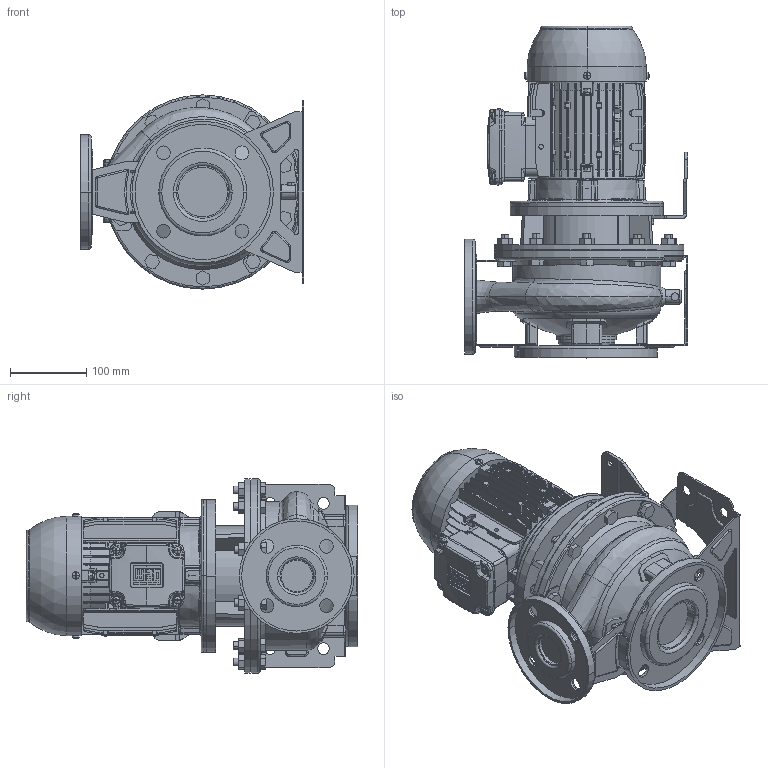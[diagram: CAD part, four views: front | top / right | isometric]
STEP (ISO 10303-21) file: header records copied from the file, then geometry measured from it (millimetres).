
FILE_DESCRIPTION (( 'STEP AP214' ), '1' );
FILE_NAME ('3LS4 40-160_0.55_(80)_W21.STEP', '2026-10-05T01:16:58', ( '' ), ( '' ), 'SwSTEP 2.0', 'SolidWorks 2024', '' );
FILE_SCHEMA (( 'AUTOMOTIVE_DESIGN' ));
Length unit declared in the file: inch
Products named in the file (3): 3SF4_40-160_0_55; 3LS4 40-160_0.55_(80)_W21; 80 ALIE3_W21_B5
Assembly tree (2 placements, depth 2):
  3LS4 40-160_0.55_(80)_W21
    3SF4_40-160_0_55
    80 ALIE3_W21_B5
Bounding box: 292 x 434 x 254 mm (x, y, z)
Volume: 8628338.7 mm3; surface area: 1095604 mm2
Topology: 12 solids, 18 shells, 2964 faces, 7759 edges, 5021 vertices
Faces by surface type: plane 1840, cylinder 703, bspline 160, torus 133, cone 94, sphere 34
Entity records: 110872 total; most frequent: CARTESIAN_POINT 38967, ORIENTED_EDGE 15482, DIRECTION 14078, EDGE_CURVE 7741, VECTOR 5048, LINE 5048, VERTEX_POINT 5021, AXIS2_PLACEMENT_3D 4515
